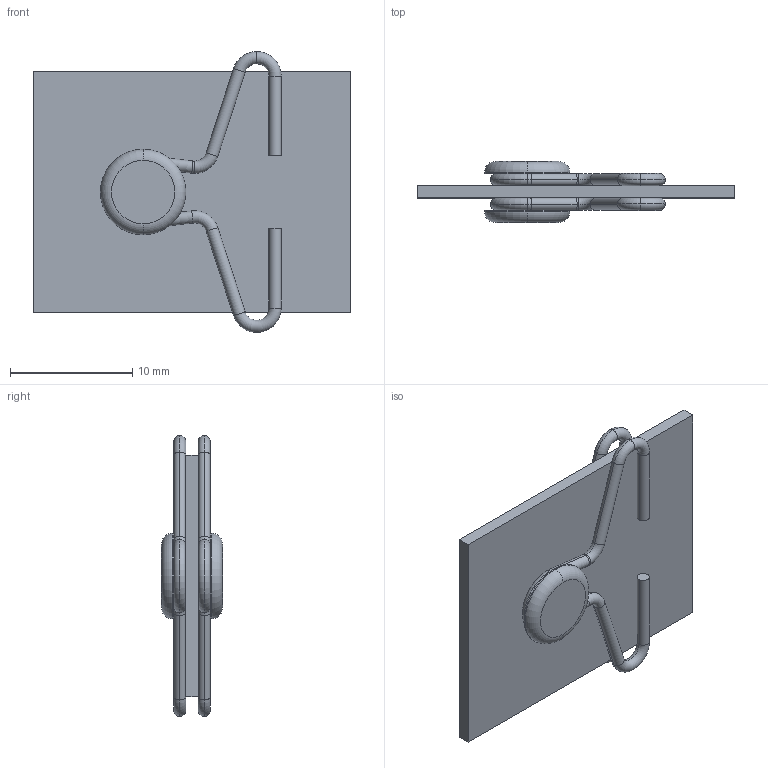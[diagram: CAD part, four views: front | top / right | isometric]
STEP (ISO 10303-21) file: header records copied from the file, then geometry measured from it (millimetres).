
FILE_DESCRIPTION (( 'STEP AP203' ), '1' );
FILE_NAME ('RLA-20x26.STEP', '2015-12-10T16:16:00', ( 'Balzi' ), ( '' ), 'SwSTEP 2.0', 'SolidWorks 2015', '' );
FILE_SCHEMA (( 'CONFIG_CONTROL_DESIGN' ));
Length unit declared in the file: millimetre
Products named in the file (1): RLA-20x26
Bounding box: 26 x 5 x 22.99 mm (x, y, z)
Volume: 660.7 mm3; surface area: 1645.2 mm2
Topology: 5 solids, 5 shells, 84 faces, 162 edges, 88 vertices
Faces by surface type: torus 40, cylinder 30, plane 14
Entity records: 2199 total; most frequent: DIRECTION 452, CARTESIAN_POINT 335, ORIENTED_EDGE 324, AXIS2_PLACEMENT_3D 205, EDGE_CURVE 162, CIRCLE 120, VERTEX_POINT 88, EDGE_LOOP 86
